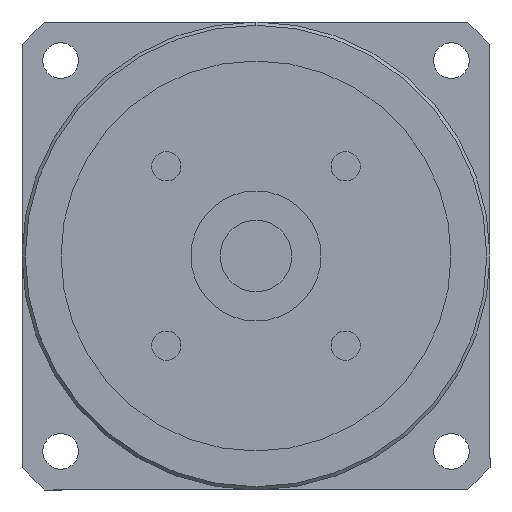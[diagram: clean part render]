
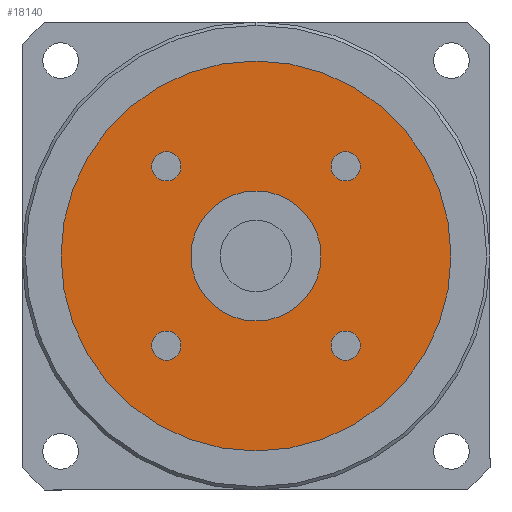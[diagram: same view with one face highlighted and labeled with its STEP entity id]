
A CAD part, left-side view. The second image highlights one B-rep face of the part: STEP entity #18140.
In plain terms, the highlighted planar face has unit normal (-1, 0, 0) as drawn and (0, 0, -1) by its records, which use the part's own axes.
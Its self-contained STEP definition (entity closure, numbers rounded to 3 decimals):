
#15090=CARTESIAN_POINT('',(0.,0.,
-91.));
#15100=DIRECTION('',(0.,0.,1.));
#15110=DIRECTION('',(0.,-1.,0.));
#15120=AXIS2_PLACEMENT_3D('',#15090,#15100,#15110);
#15130=CIRCLE('',#15120,10.);
#15140=CARTESIAN_POINT('',(0.,-10.,-91.));
#15150=VERTEX_POINT('',#15140);
#15160=CARTESIAN_POINT('',(10.,0.,-91.))
;
#15170=VERTEX_POINT('',#15160);
#15180=EDGE_CURVE('',#15150,#15170,#15130,.T.);
#15450=CARTESIAN_POINT('',(-10.,0.,-91.));
#15460=VERTEX_POINT('',#15450);
#15490=EDGE_CURVE('',#15460,#15150,#15130,.T.);
#15630=CARTESIAN_POINT('',(13.789,-11.539,-91.));
#15640=VERTEX_POINT('',#15630);
#15820=CARTESIAN_POINT('',(13.789,-16.039,-91.));
#15830=VERTEX_POINT('',#15820);
#15860=CARTESIAN_POINT('',(13.789,-13.789,-91.));
#15870=DIRECTION('',(0.,0.,-1.));
#15880=DIRECTION('',(1.,0.,0.));
#15890=AXIS2_PLACEMENT_3D('',#15860,#15870,#15880);
#15900=CIRCLE('',#15890,2.25);
#15910=CARTESIAN_POINT('',(16.039,-13.789,-91.));
#15920=VERTEX_POINT('',#15910);
#15930=EDGE_CURVE('',#15920,#15830,#15900,.T.);
#15950=EDGE_CURVE('',#15640,#15920,#15900,.T.);
#17070=CARTESIAN_POINT('',(30.,0.,-91.));
#17080=VERTEX_POINT('',#17070);
#17110=CARTESIAN_POINT('',(0.,0.,
-91.));
#17120=DIRECTION('',(0.,0.,1.));
#17130=DIRECTION('',(0.,-1.,0.));
#17140=AXIS2_PLACEMENT_3D('',#17110,#17120,#17130);
#17150=CIRCLE('',#17140,30.);
#17160=CARTESIAN_POINT('',(0.,-30.,-91.));
#17170=VERTEX_POINT('',#17160);
#17180=EDGE_CURVE('',#17170,#17080,#17150,.T.);
#17200=CARTESIAN_POINT('',(-30.,0.,-91.));
#17210=VERTEX_POINT('',#17200);
#17220=EDGE_CURVE('',#17210,#17170,#17150,.T.);
#17340=CARTESIAN_POINT('',(0.,0.,
-91.));
#17350=DIRECTION('',(0.,0.,1.));
#17360=DIRECTION('',(-1.,0.,0.));
#17370=AXIS2_PLACEMENT_3D('',#17340,#17350,#17360);
#17380=PLANE('',#17370);
#17390=CARTESIAN_POINT('',(13.789,13.789,-91.));
#17400=DIRECTION('',(0.,0.,-1.));
#17410=DIRECTION('',(0.,1.,0.));
#17420=AXIS2_PLACEMENT_3D('',#17390,#17400,#17410);
#17430=CIRCLE('',#17420,2.25);
#17440=CARTESIAN_POINT('',(13.789,16.039,-91.));
#17450=VERTEX_POINT('',#17440);
#17460=CARTESIAN_POINT('',(16.039,13.789,-91.));
#17470=VERTEX_POINT('',#17460);
#17480=EDGE_CURVE('',#17450,#17470,#17430,.T.);
#17490=ORIENTED_EDGE('',*,*,#17480,.F.);
#17500=CARTESIAN_POINT('',(11.539,13.789,-91.));
#17510=VERTEX_POINT('',#17500);
#17520=EDGE_CURVE('',#17470,#17510,#17430,.T.);
#17530=ORIENTED_EDGE('',*,*,#17520,.F.);
#17540=EDGE_CURVE('',#17510,#17450,#17430,.T.);
#17550=ORIENTED_EDGE('',*,*,#17540,.F.);
#17560=EDGE_LOOP('',(#17550,#17530,#17490));
#17570=FACE_BOUND('',#17560,.T.);
#17580=CARTESIAN_POINT('',(-13.789,13.789,-91.));
#17590=DIRECTION('',(0.,0.,-1.));
#17600=DIRECTION('',(-1.,0.,0.));
#17610=AXIS2_PLACEMENT_3D('',#17580,#17590,#17600);
#17620=CIRCLE('',#17610,2.25);
#17630=CARTESIAN_POINT('',(-16.039,13.789,-91.));
#17640=VERTEX_POINT('',#17630);
#17650=CARTESIAN_POINT('',(-13.789,16.039,-91.));
#17660=VERTEX_POINT('',#17650);
#17670=EDGE_CURVE('',#17640,#17660,#17620,.T.);
#17680=ORIENTED_EDGE('',*,*,#17670,.F.);
#17690=CARTESIAN_POINT('',(-13.789,11.539,-91.));
#17700=VERTEX_POINT('',#17690);
#17710=EDGE_CURVE('',#17660,#17700,#17620,.T.);
#17720=ORIENTED_EDGE('',*,*,#17710,.F.);
#17730=EDGE_CURVE('',#17700,#17640,#17620,.T.);
#17740=ORIENTED_EDGE('',*,*,#17730,.F.);
#17750=EDGE_LOOP('',(#17740,#17720,#17680));
#17760=FACE_BOUND('',#17750,.T.);
#17770=CARTESIAN_POINT('',(-13.789,-13.789,-91.));
#17780=DIRECTION('',(0.,0.,-1.));
#17790=DIRECTION('',(0.,-1.,0.));
#17800=AXIS2_PLACEMENT_3D('',#17770,#17780,#17790);
#17810=CIRCLE('',#17800,2.25);
#17820=CARTESIAN_POINT('',(-13.789,-16.039,-91.));
#17830=VERTEX_POINT('',#17820);
#17840=CARTESIAN_POINT('',(-16.039,-13.789,-91.));
#17850=VERTEX_POINT('',#17840);
#17860=EDGE_CURVE('',#17830,#17850,#17810,.T.);
#17870=ORIENTED_EDGE('',*,*,#17860,.F.);
#17880=CARTESIAN_POINT('',(-11.539,-13.789,-91.));
#17890=VERTEX_POINT('',#17880);
#17900=EDGE_CURVE('',#17850,#17890,#17810,.T.);
#17910=ORIENTED_EDGE('',*,*,#17900,.F.);
#17920=EDGE_CURVE('',#17890,#17830,#17810,.T.);
#17930=ORIENTED_EDGE('',*,*,#17920,.F.);
#17940=EDGE_LOOP('',(#17930,#17910,#17870));
#17950=FACE_BOUND('',#17940,.T.);
#17960=EDGE_CURVE('',#15170,#15460,#15130,.T.);
#17970=ORIENTED_EDGE('',*,*,#17960,.T.);
#17980=ORIENTED_EDGE('',*,*,#15180,.T.);
#17990=ORIENTED_EDGE('',*,*,#15490,.T.);
#18000=EDGE_LOOP('',(#17990,#17980,#17970));
#18010=FACE_BOUND('',#18000,.T.);
#18020=ORIENTED_EDGE('',*,*,#15930,.F.);
#18030=EDGE_CURVE('',#15830,#15640,#15900,.T.);
#18040=ORIENTED_EDGE('',*,*,#18030,.F.);
#18050=ORIENTED_EDGE('',*,*,#15950,.F.);
#18060=EDGE_LOOP('',(#18050,#18040,#18020));
#18070=FACE_BOUND('',#18060,.T.);
#18080=ORIENTED_EDGE('',*,*,#17180,.F.);
#18090=EDGE_CURVE('',#17080,#17210,#17150,.T.);
#18100=ORIENTED_EDGE('',*,*,#18090,.F.);
#18110=ORIENTED_EDGE('',*,*,#17220,.F.);
#18120=EDGE_LOOP('',(#18110,#18100,#18080));
#18130=FACE_OUTER_BOUND('',#18120,.T.);
#18140=ADVANCED_FACE('',(#17570,#17760,#17950,#18010,#18070,#18130),
#17380,.F.);
